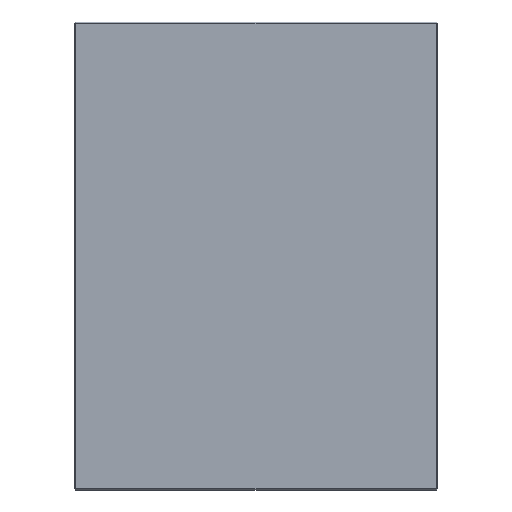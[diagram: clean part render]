
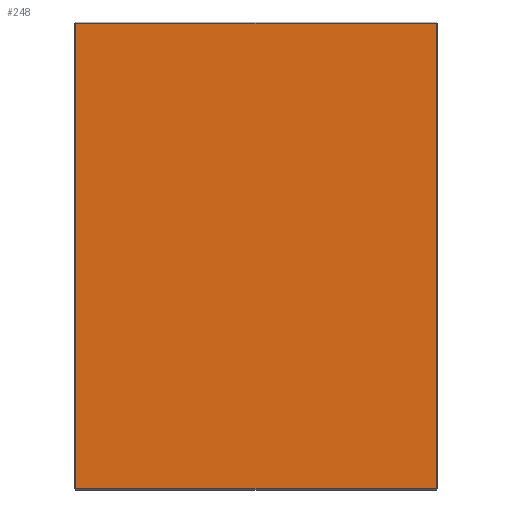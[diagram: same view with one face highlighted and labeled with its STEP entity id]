
A CAD part, front view. The second image highlights one B-rep face of the part: STEP entity #248.
In plain terms, the highlighted planar face has unit normal (0, -1, 0).
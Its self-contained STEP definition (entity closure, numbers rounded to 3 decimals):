
#81 = FACE_OUTER_BOUND ( 'NONE', #287, .T. ) ;
#99 = VECTOR ( 'NONE', #199, 1000. ) ;
#105 = CARTESIAN_POINT ( 'NONE',  ( -172., 0., -222. ) ) ;
#199 = DIRECTION ( 'NONE',  ( 0., 0., -1. ) ) ;
#202 = CARTESIAN_POINT ( 'NONE',  ( -173., 0., 222. ) ) ;
#206 = EDGE_CURVE ( 'NONE', #614, #208, #544, .T. ) ;
#208 = VERTEX_POINT ( 'NONE', #640 ) ;
#221 = CARTESIAN_POINT ( 'NONE',  ( -172., 0., -223. ) ) ;
#223 = DIRECTION ( 'NONE',  ( -1., 0., 0. ) ) ;
#225 = CARTESIAN_POINT ( 'NONE',  ( 172., 0., 222. ) ) ;
#248 = ADVANCED_FACE ( 'NONE', ( #81 ), #639, .T. ) ;
#273 = VECTOR ( 'NONE', #360, 1000. ) ;
#287 = EDGE_LOOP ( 'NONE', ( #555, #637, #373, #409 ) ) ;
#299 = VECTOR ( 'NONE', #223, 1000. ) ;
#311 = LINE ( 'NONE', #421, #273 ) ;
#335 = LINE ( 'NONE', #221, #99 ) ;
#349 = DIRECTION ( 'NONE',  ( 0., 0., -1. ) ) ;
#360 = DIRECTION ( 'NONE',  ( 0., 0., 1. ) ) ;
#363 = VERTEX_POINT ( 'NONE', #593 ) ;
#373 = ORIENTED_EDGE ( 'NONE', *, *, #434, .T. ) ;
#409 = ORIENTED_EDGE ( 'NONE', *, *, #551, .T. ) ;
#421 = CARTESIAN_POINT ( 'NONE',  ( 172., 0., 223. ) ) ;
#434 = EDGE_CURVE ( 'NONE', #208, #573, #311, .T. ) ;
#457 = AXIS2_PLACEMENT_3D ( 'NONE', #592, #533, #349 ) ;
#504 = VECTOR ( 'NONE', #633, 1000. ) ;
#533 = DIRECTION ( 'NONE',  ( 0., -1., 0. ) ) ;
#544 = LINE ( 'NONE', #625, #504 ) ;
#551 = EDGE_CURVE ( 'NONE', #573, #363, #568, .T. ) ;
#555 = ORIENTED_EDGE ( 'NONE', *, *, #559, .T. ) ;
#559 = EDGE_CURVE ( 'NONE', #363, #614, #335, .T. ) ;
#568 = LINE ( 'NONE', #202, #299 ) ;
#573 = VERTEX_POINT ( 'NONE', #225 ) ;
#592 = CARTESIAN_POINT ( 'NONE',  ( 0., 0., 0. ) ) ;
#593 = CARTESIAN_POINT ( 'NONE',  ( -172., 0., 222. ) ) ;
#614 = VERTEX_POINT ( 'NONE', #105 ) ;
#625 = CARTESIAN_POINT ( 'NONE',  ( 173., 0., -222. ) ) ;
#633 = DIRECTION ( 'NONE',  ( 1., 0., 0. ) ) ;
#637 = ORIENTED_EDGE ( 'NONE', *, *, #206, .T. ) ;
#639 = PLANE ( 'NONE',  #457 ) ;
#640 = CARTESIAN_POINT ( 'NONE',  ( 172., 0., -222. ) ) ;
